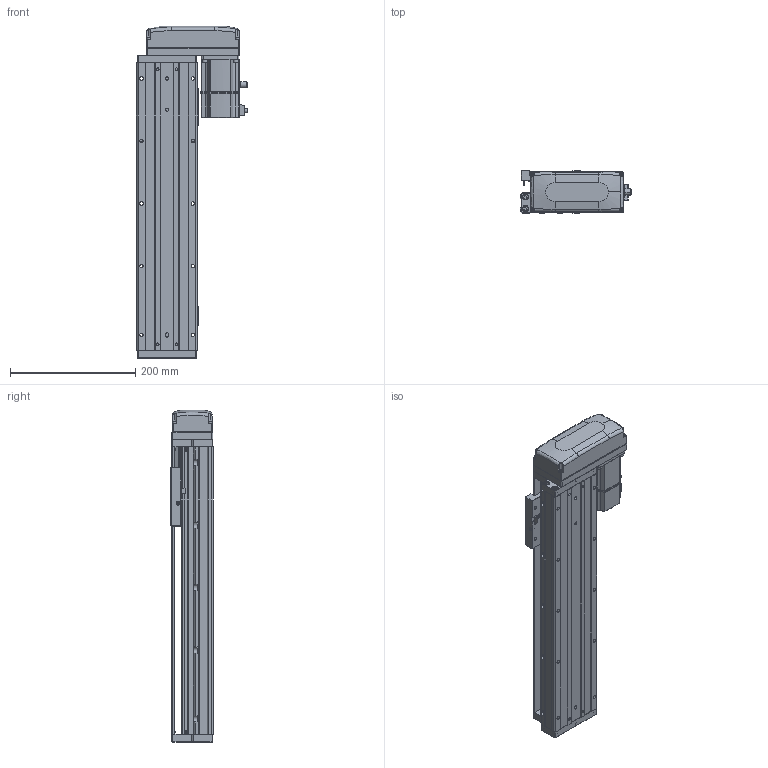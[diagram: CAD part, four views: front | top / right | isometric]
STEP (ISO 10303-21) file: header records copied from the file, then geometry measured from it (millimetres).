
FILE_DESCRIPTION (( 'STEP AP203' ), '1' );
FILE_NAME ('KTHA100-300-BL-M20-C4L.step', '2022-04-26T01:48:18', ( '微软用户' ), ( '微软中国' ), 'SwSTEP 2.0', 'SolidWorks 2020', '' );
FILE_SCHEMA (( 'CONFIG_CONTROL_DESIGN' ));
Length unit declared in the file: millimetre
Products named in the file (17): EE_SX911P_R; GBT 70.3-M3℅6; CTHA60-017; _X2_4E0983F1_X0_200W_1; KTHA100-001_460; CTHA60-021; CTHA86-015-1_CTHA86-015-2; KTHA100-002; GBT77-2000 M3×3; CTHA86-033; KTHA100-004; GBT 70.1-M3℅6; KTHA100-300-BL-M20-C4L; KTHA100-005; GBT70.1 M5℅16; GB¨uT 70.2-M3¡Á5_M3¡Á6; CTHA60-016
Assembly tree (57 placements, depth 2):
  KTHA100-300-BL-M20-C4L
    KTHA100-001_460
    KTHA100-002
    KTHA100-004
    KTHA100-005
    GB¨uT 70.2-M3¡Á5_M3¡Á6  x6
    EE_SX911P_R  x3
    CTHA60-017  x3
    CTHA60-021  x2
    GBT77-2000 M3×3  x6
    GBT 70.1-M3℅6  x10
    GBT70.1 M5℅16  x14
    CTHA60-016  x2
    GBT 70.3-M3℅6  x4
    _X2_4E0983F1_X0_200W_1
    CTHA86-015-1_CTHA86-015-2
    CTHA86-033
Bounding box: 177.7 x 68 x 531 mm (x, y, z)
Volume: 2625591.9 mm3; surface area: 435549.7 mm2
Topology: 60 solids, 60 shells, 2377 faces, 5665 edges, 3508 vertices
Faces by surface type: plane 1208, cylinder 659, cone 303, torus 116, bspline 75, sphere 16
Entity records: 40010 total; most frequent: CARTESIAN_POINT 8112, DIRECTION 6162, ORIENTED_EDGE 5942, EDGE_CURVE 2971, AXIS2_PLACEMENT_3D 2166, VERTEX_POINT 1868, VECTOR 1830, LINE 1830
